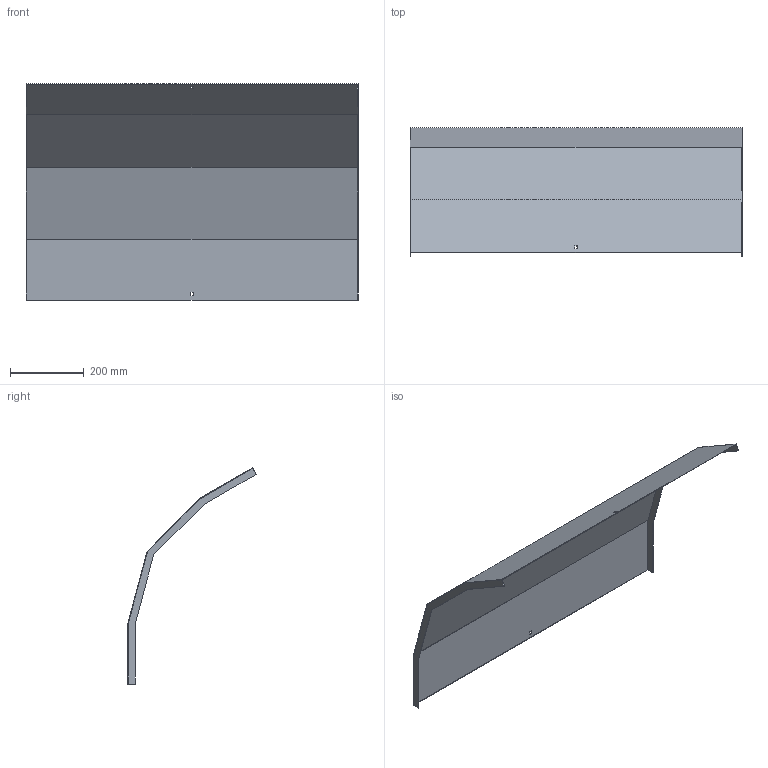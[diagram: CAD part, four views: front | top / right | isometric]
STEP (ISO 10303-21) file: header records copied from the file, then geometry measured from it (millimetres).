
FILE_DESCRIPTION (( 'STEP AP214' ), '1' );
FILE_NAME ('A2_41N3D900.step', '2025-02-21T10:40:22', ( '' ), ( '' ), 'SwSTEP 2.0', 'SolidWorks 2023', '' );
FILE_SCHEMA (( 'AUTOMOTIVE_DESIGN' ));
Length unit declared in the file: millimetre
Products named in the file (1): A2_41N3D900
Bounding box: 903 x 349.52 x 588.06 mm (x, y, z)
Volume: 1037633.9 mm3; surface area: 1388575.3 mm2
Topology: 1 solids, 1 shells, 30 faces, 84 edges, 56 vertices
Faces by surface type: plane 30
Entity records: 979 total; most frequent: CARTESIAN_POINT 171, ORIENTED_EDGE 168, DIRECTION 146, VECTOR 84, EDGE_CURVE 84, LINE 84, VERTEX_POINT 56, EDGE_LOOP 34
